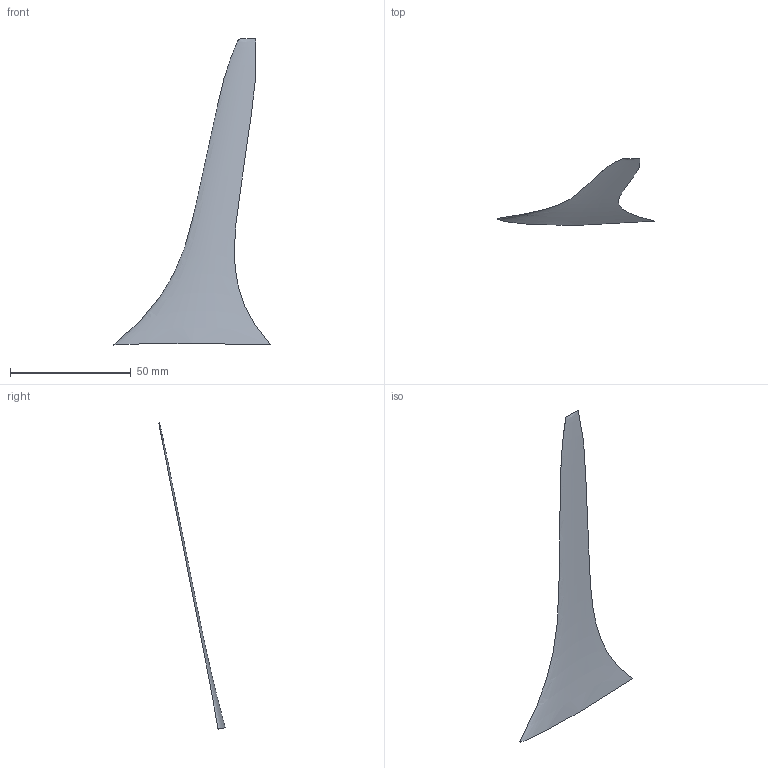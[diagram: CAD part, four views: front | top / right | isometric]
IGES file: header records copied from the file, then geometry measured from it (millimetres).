
Start section: This file was written from GridTool (For more information see ht tp://geolab.larc.nasa.gov/GridTool) or contact GridTool author: Jamshid Samareh (j.a.samareh@larc.nasa.gov)
Global section: file name: 47H/usr2/people/rosen/nets_pact/mx12_igs/wngu.igs; native system: Jamshid_system(j.a.samareh@larc.nasa.gov); preprocessor: V.0.0.0.0.0; author: Jamshid_Samareh; organization: CSC; date: 970923.221013; units: inch
Bounding box: 64.99 x 27.49 x 126.83 mm (x, y, z)
Surface area: 2875.5 mm2 (no closed solid volume)
Topology: 0 solids, 0 shells, 1 faces, 4 edges, 4 vertices
Faces by surface type: bspline 1
